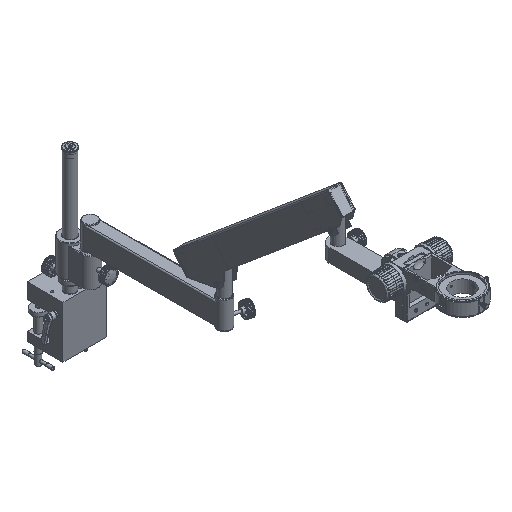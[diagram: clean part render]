
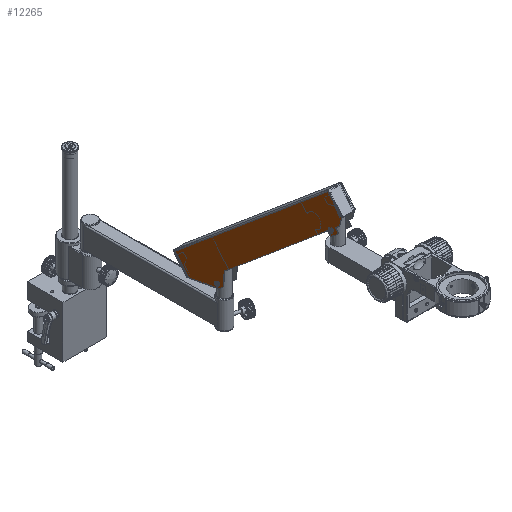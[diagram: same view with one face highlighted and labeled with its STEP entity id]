
A CAD part, isometric view. The second image highlights one B-rep face of the part: STEP entity #12265.
In plain terms, the highlighted planar face has unit normal (-1, 0, 0).
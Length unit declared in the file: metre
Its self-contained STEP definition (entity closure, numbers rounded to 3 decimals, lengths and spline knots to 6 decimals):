
#12265=ADVANCED_FACE('51:13265',(#28309,#28310,#28311),#28312,.F.);
#14115=EDGE_CURVE('52:10079',#31177,#31180,#31181,.T.);
#14133=EDGE_CURVE('51:13628',#31203,#31206,#31207,.T.);
#15029=EDGE_CURVE('51:13385',#31203,#32492,#32493,.T.);
#15031=EDGE_CURVE('51:13631',#32495,#32492,#32496,.T.);
#15033=EDGE_CURVE('51:13613',#32495,#32498,#32499,.T.);
#15035=EDGE_CURVE('51:13727',#32498,#31180,#32501,.T.);
#15037=EDGE_CURVE('52:10076',#32503,#31177,#32504,.T.);
#15039=EDGE_CURVE('51:13454',#32503,#32506,#32507,.T.);
#15041=EDGE_CURVE('52:9206',#31086,#32506,#32509,.T.);
#15043=EDGE_CURVE('52:9203',#32511,#31086,#32512,.T.);
#15045=EDGE_CURVE('51:13565',#32514,#32511,#32515,.T.);
#15047=EDGE_CURVE('51:13574',#32517,#32514,#32518,.T.);
#15049=EDGE_CURVE('51:13583',#32520,#32517,#32521,.T.);
#15051=EDGE_CURVE('51:13643',#32523,#32520,#32524,.T.);
#15053=EDGE_CURVE('51:13625',#32526,#32523,#32527,.T.);
#15055=EDGE_CURVE('51:13388',#32526,#31206,#32529,.T.);
#15057=EDGE_CURVE('52:10942',#32531,#32531,#32532,.T.);
#15059=EDGE_CURVE('52:8022',#32534,#32534,#32535,.T.);
#28309=FACE_OUTER_BOUND('',#53069,.T.);
#28310=FACE_BOUND('',#53070,.T.);
#28311=FACE_BOUND('',#53071,.T.);
#28312=PLANE('',#53072);
#31086=VERTEX_POINT('',#56667);
#31177=VERTEX_POINT('',#56879);
#31180=VERTEX_POINT('',#56883);
#31181=LINE('',#56884,#56885);
#31203=VERTEX_POINT('',#56918);
#31206=VERTEX_POINT('',#56923);
#31207=LINE('',#56924,#56925);
#32492=VERTEX_POINT('',#58946);
#32493=CIRCLE('',#58947,0.002);
#32495=VERTEX_POINT('',#58950);
#32496=LINE('',#58951,#58952);
#32498=VERTEX_POINT('',#58955);
#32499=LINE('',#58956,#58957);
#32501=LINE('',#58960,#58961);
#32503=VERTEX_POINT('',#58964);
#32504=LINE('',#58965,#58966);
#32506=VERTEX_POINT('',#58969);
#32507=LINE('',#58970,#58971);
#32509=LINE('',#58974,#58975);
#32511=VERTEX_POINT('',#58978);
#32512=LINE('',#58979,#58980);
#32514=VERTEX_POINT('',#58983);
#32515=LINE('',#58984,#58985);
#32517=VERTEX_POINT('',#58988);
#32518=LINE('',#58989,#58990);
#32520=VERTEX_POINT('',#58993);
#32521=LINE('',#58994,#58995);
#32523=VERTEX_POINT('',#58998);
#32524=LINE('',#58999,#59000);
#32526=VERTEX_POINT('',#59003);
#32527=LINE('',#59004,#59005);
#32529=CIRCLE('',#59008,0.002);
#32531=VERTEX_POINT('',#59011);
#32532=CIRCLE('',#59012,0.003);
#32534=VERTEX_POINT('',#59015);
#32535=CIRCLE('',#59016,0.003);
#53069=EDGE_LOOP('',(#80982,#80983,#80984,#80985,#80986,#80987,#80988,#80989,#80990,#80991,#80992,#80993,#80994,#80995,#80996,#80997));
#53070=EDGE_LOOP('',(#80998));
#53071=EDGE_LOOP('',(#80999));
#53072=AXIS2_PLACEMENT_3D('',#81000,#81001,#81002);
#56667=CARTESIAN_POINT('',(-0.032,-0.301331,0.288523));
#56879=CARTESIAN_POINT('',(-0.032,-0.643753,0.575849));
#56883=CARTESIAN_POINT('',(-0.032,-0.645517,0.573746));
#56884=CARTESIAN_POINT('',(-0.032,-0.613378,0.612048));
#56885=VECTOR('',#87713,1.0);
#56918=CARTESIAN_POINT('',(-0.032,-0.637444,0.538252));
#56923=CARTESIAN_POINT('',(-0.032,-0.622889,0.526039));
#56924=CARTESIAN_POINT('',(-0.032,-0.620591,0.524111));
#56925=VECTOR('',#87730,1.0);
#58946=CARTESIAN_POINT('',(-0.032,-0.63769,0.54107));
#58947=AXIS2_PLACEMENT_3D('',#88620,#88621,#88622);
#58950=CARTESIAN_POINT('',(-0.032,-0.631905,0.547964));
#58951=CARTESIAN_POINT('',(-0.032,-0.638976,0.539538));
#58952=VECTOR('',#88623,1.0);
#58955=CARTESIAN_POINT('',(-0.032,-0.641098,0.555678));
#58956=CARTESIAN_POINT('',(-0.032,-0.631139,0.547321));
#58957=VECTOR('',#88624,1.0);
#58960=CARTESIAN_POINT('',(-0.032,-0.645517,0.573746));
#58961=VECTOR('',#88625,1.0);
#58964=CARTESIAN_POINT('',(-0.032,-0.615306,0.60975));
#58965=CARTESIAN_POINT('',(-0.032,-0.613378,0.612048));
#58966=VECTOR('',#88626,1.0);
#58969=CARTESIAN_POINT('',(-0.032,-0.272885,0.322424));
#58970=CARTESIAN_POINT('',(-0.032,-0.322678,0.364205));
#58971=VECTOR('',#88627,1.0);
#58974=CARTESIAN_POINT('',(-0.032,-0.303096,0.28642));
#58975=VECTOR('',#88628,1.0);
#58978=CARTESIAN_POINT('',(-0.032,-0.303096,0.28642));
#58979=CARTESIAN_POINT('',(-0.032,-0.303096,0.28642));
#58980=VECTOR('',#88629,1.0);
#58983=CARTESIAN_POINT('',(-0.032,-0.370955,0.298892));
#58984=CARTESIAN_POINT('',(-0.032,-0.370955,0.298892));
#58985=VECTOR('',#88630,1.0);
#58988=CARTESIAN_POINT('',(-0.032,-0.380913,0.307248));
#58989=CARTESIAN_POINT('',(-0.032,-0.370955,0.298892));
#58990=VECTOR('',#88631,1.0);
#58993=CARTESIAN_POINT('',(-0.032,-0.383707,0.339701));
#58994=CARTESIAN_POINT('',(-0.032,-0.383707,0.339701));
#58995=VECTOR('',#88632,1.0);
#58998=CARTESIAN_POINT('',(-0.032,-0.614286,0.53318));
#58999=CARTESIAN_POINT('',(-0.032,-0.383707,0.339701));
#59000=VECTOR('',#88633,1.0);
#59003=CARTESIAN_POINT('',(-0.032,-0.620071,0.526286));
#59004=CARTESIAN_POINT('',(-0.032,-0.614286,0.53318));
#59005=VECTOR('',#88634,1.0);
#59008=AXIS2_PLACEMENT_3D('',#88635,#88636,#88637);
#59011=CARTESIAN_POINT('',(-0.032,-0.623395,0.53647));
#59012=AXIS2_PLACEMENT_3D('',#88638,#88639,#88640);
#59015=CARTESIAN_POINT('',(-0.032,-0.369,0.306));
#59016=AXIS2_PLACEMENT_3D('',#88641,#88642,#88643);
#80982=ORIENTED_EDGE('',*,*,#14133,.F.);
#80983=ORIENTED_EDGE('',*,*,#15029,.T.);
#80984=ORIENTED_EDGE('',*,*,#15031,.F.);
#80985=ORIENTED_EDGE('',*,*,#15033,.T.);
#80986=ORIENTED_EDGE('',*,*,#15035,.T.);
#80987=ORIENTED_EDGE('',*,*,#14115,.F.);
#80988=ORIENTED_EDGE('',*,*,#15037,.F.);
#80989=ORIENTED_EDGE('',*,*,#15039,.T.);
#80990=ORIENTED_EDGE('',*,*,#15041,.F.);
#80991=ORIENTED_EDGE('',*,*,#15043,.F.);
#80992=ORIENTED_EDGE('',*,*,#15045,.F.);
#80993=ORIENTED_EDGE('',*,*,#15047,.F.);
#80994=ORIENTED_EDGE('',*,*,#15049,.F.);
#80995=ORIENTED_EDGE('',*,*,#15051,.F.);
#80996=ORIENTED_EDGE('',*,*,#15053,.F.);
#80997=ORIENTED_EDGE('',*,*,#15055,.T.);
#80998=ORIENTED_EDGE('',*,*,#15057,.T.);
#80999=ORIENTED_EDGE('',*,*,#15059,.F.);
#81000=CARTESIAN_POINT('',(-0.032,-0.369,0.309));
#81001=DIRECTION('',(1.0,0.0,0.));
#81002=DIRECTION('',(0.,0.0,-1.0));
#87713=DIRECTION('',(0.,-0.643,-0.766));
#87730=DIRECTION('',(0.,0.766,-0.643));
#88620=CARTESIAN_POINT('',(-0.032,-0.636158,0.539784));
#88621=DIRECTION('',(-1.0,-0.0,0.));
#88622=DIRECTION('',(0.,0.0,-1.0));
#88623=DIRECTION('',(0.,-0.643,-0.766));
#88624=DIRECTION('',(0.,-0.766,0.643));
#88625=DIRECTION('',(0.,-0.238,0.971));
#88626=DIRECTION('',(0.,-0.643,-0.766));
#88627=DIRECTION('',(0.,0.766,-0.643));
#88628=DIRECTION('',(0.,0.643,0.766));
#88629=DIRECTION('',(0.,0.643,0.766));
#88630=DIRECTION('',(0.,0.984,-0.181));
#88631=DIRECTION('',(0.,0.766,-0.643));
#88632=DIRECTION('',(0.,0.086,-0.996));
#88633=DIRECTION('',(0.,0.766,-0.643));
#88634=DIRECTION('',(0.,0.643,0.766));
#88635=CARTESIAN_POINT('',(-0.032,-0.621603,0.527571));
#88636=DIRECTION('',(-1.0,-0.0,0.));
#88637=DIRECTION('',(0.,0.0,-1.0));
#88638=CARTESIAN_POINT('',(-0.032,-0.623395,0.53947));
#88639=DIRECTION('',(1.0,0.0,0.));
#88640=DIRECTION('',(0.,0.0,-1.0));
#88641=CARTESIAN_POINT('',(-0.032,-0.369,0.309));
#88642=DIRECTION('',(-1.0,-0.0,0.));
#88643=DIRECTION('',(0.,0.0,-1.0));
